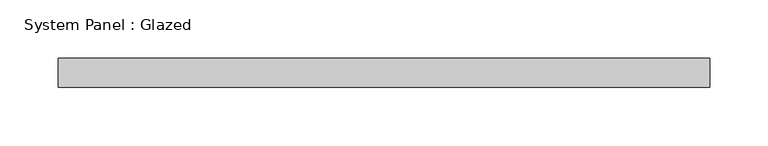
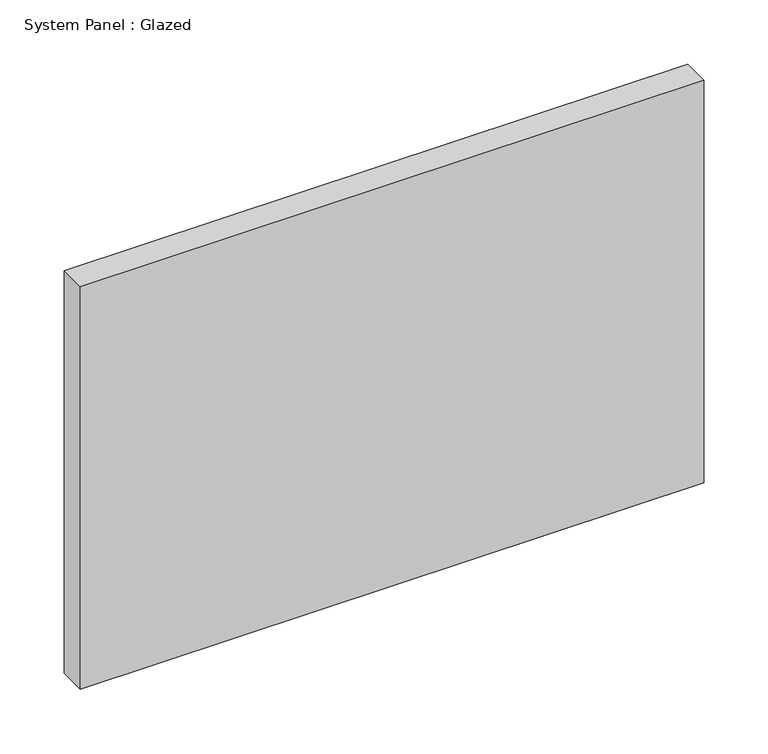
"""IFC4 building model written with IfcOpenShell, lengths in millimetres: plate geometry, System Panel : Glazed."""

from ifc_helpers import new_model, si_unit, origin, origin_with_axes, place, context, project, spatial, polyline, outline, extrude, source, transform, mapped, element, save


def system_panel_glazed_802e9393(model_context):
    return source(origin(), model_context, "Body", "SweptSolid", [
        extrude(outline(polyline([(279.8, 24.5), (-279.8, 24.5), (-279.8, 49.5), (279.8, 49.5), (279.8, 24.5)])), origin_with_axes(), (0.0, 0.0, 1.0), 382.2),
    ])


if __name__ == "__main__":
    model = new_model("IFC4")
    model_context = context("Model", 3, world=origin())
    ifc_project = project(units=[si_unit("LENGTHUNIT", "METRE", prefix="MILLI")], contexts=[model_context])
    site = spatial("IfcSite", under=ifc_project)
    building = spatial("IfcBuilding", under=site)
    placement = place(None, origin())
    system_panel_glazed_shape = system_panel_glazed_802e9393(model_context)
    element("IfcPlate", 1, ObjectType="System Panel : Glazed", at=placement, inside=building, context=model_context, shape_type="MappedRepresentation", body=[
        mapped(system_panel_glazed_shape, transform((0.0, 0.0, 0.0), x_axis=(1.0, 0.0, 0.0), y_axis=(0.0, 1.0, 0.0), z_axis=(0.0, 0.0, 1.0))),
    ])
    save(model, "model.ifc")
